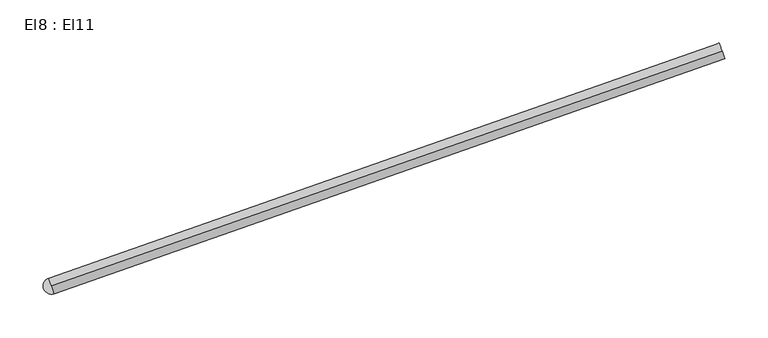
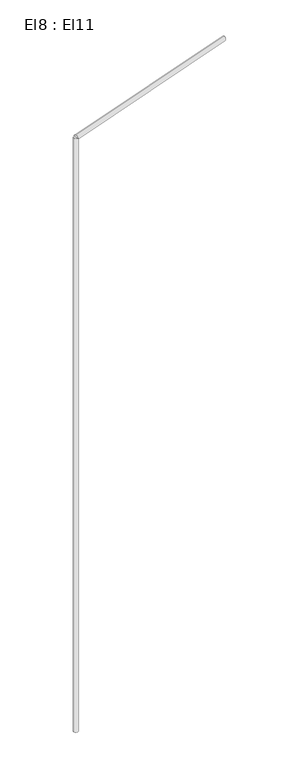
"""IFC4 building model written with IfcOpenShell, lengths in millimetres: cable carrier segment geometry, El8 : El11."""

from ifc_helpers import new_model, si_unit, point, frame, frame_2d, origin, place, context, project, spatial, circle_curve, trimmed, segment, composite_curve, outline, extrude, source, transform, mapped, element, save


def el8_el11_be719dc9(model_context):
    return source(origin(), model_context, "Body", "SweptSolid", [
        extrude(outline(composite_curve([segment(trimmed(circle_curve(frame_2d((2264.4756511, 937.7741745)), 9.5), [point((2254.9756511, 937.7741745))], [point((2273.9756511, 937.7741745))], False, "CARTESIAN"), True, "CONTINUOUS"), segment(trimmed(circle_curve(frame_2d((2264.4756511, 937.7741745)), 9.5), [point((2273.9756511, 937.7741745))], [point((2254.9756511, 937.7741745))], False, "CARTESIAN"), True, "CONTINUOUS")], self_intersect=False)), frame((0.0, 0.0, 1830.0), z_axis=(0.0, 0.0, 1.0), x_axis=(1.0, 0.0, 0.0)), (0.0, 0.0, 1.0), 2620.0),
        extrude(outline(composite_curve([segment(trimmed(circle_curve(frame_2d((0.0, -9.5)), 9.5), [point((0.0, -19.0))], [point((0.0, 0.0))], False, "CARTESIAN"), True, "CONTINUOUS"), segment(trimmed(circle_curve(frame_2d((0.0, -9.5)), 9.5), [point((0.0, 0.0))], [point((0.0, -19.0))], False, "CARTESIAN"), True, "CONTINUOUS")], self_intersect=False)), frame((2264.4759247, 937.7744308, 4459.5), z_axis=(0.9435858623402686, 0.33112795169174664, 0.0), x_axis=(-0.33112795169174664, 0.9435858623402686, 0.0)), (0.0, 0.0, 1.0), 820.987),
    ])


if __name__ == "__main__":
    model = new_model("IFC4")
    model_context = context("Model", 3, world=origin())
    ifc_project = project(units=[si_unit("LENGTHUNIT", "METRE", prefix="MILLI")], contexts=[model_context])
    site = spatial("IfcSite", under=ifc_project)
    building = spatial("IfcBuilding", under=site)
    placement = place(None, origin())
    el8_el11_shape = el8_el11_be719dc9(model_context)
    element("IfcCableCarrierSegment", 1, ObjectType="El8 : El11", at=placement, inside=building, context=model_context, shape_type="MappedRepresentation", body=[
        mapped(el8_el11_shape, transform((0.0, 0.0, 0.0), x_axis=(1.0, 0.0, 0.0), y_axis=(0.0, 1.0, 0.0), z_axis=(0.0, 0.0, 1.0))),
    ])
    save(model, "model.ifc")
